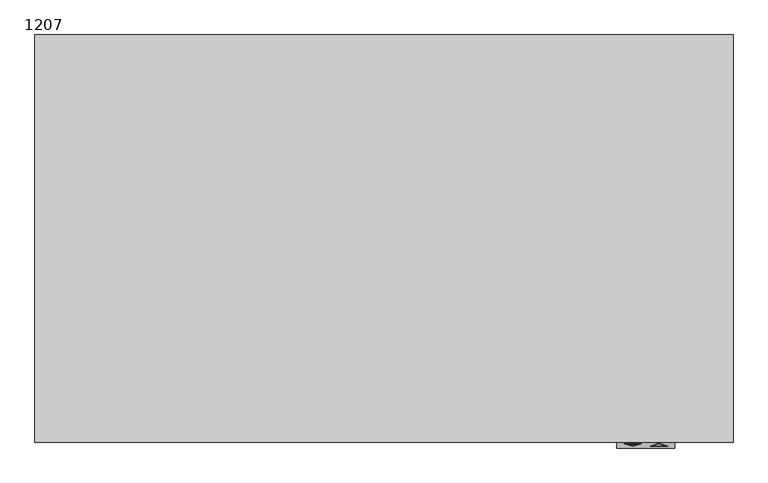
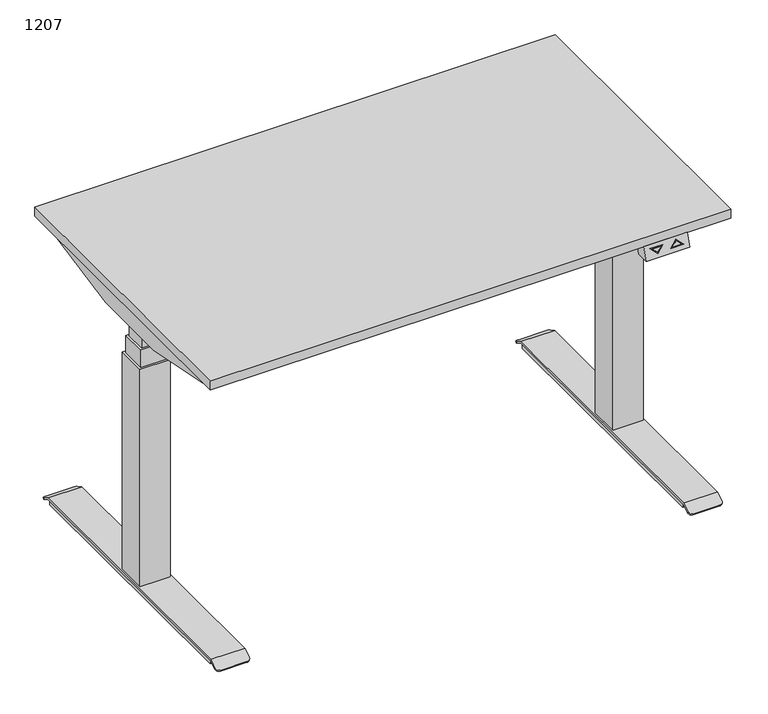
"""IFC4 building model written with IfcOpenShell, lengths in millimetres: furniture geometry, PINTA EQC : 1207."""

import ifcopenshell
import ifcopenshell.guid

model = None  # the IFC model being written
_history = None  # IfcOwnerHistory: only IFC2X3 demands one
_inside = {}  # id of a spatial element -> (the spatial element, [elements in it])
_under = {}  # id of a project, library or spatial element -> (it, [spatial elements below it])
_declared = {}  # id of a project -> (the project, [libraries it declares])
_typed = {}  # id of a type object -> (the type object, [elements of that type])
_made_of = {}  # id of a material, layer set ... -> (it, [elements and type objects made of it])


def new_model(schema):
    """Start an empty IFC model of exactly this schema.

    Asked for "IFC4X3", IfcOpenShell would pick the latest addendum, in which some entities
    have other attributes; the version numbers below select the first issue.
    IFC2X3 requires an IfcOwnerHistory on every rooted entity: one is made here for all.
    """
    global model, _history
    if schema == "IFC4X3":
        model = ifcopenshell.file(schema_version=(4, 3, 0, 0))
    else:
        model = ifcopenshell.file(schema=schema)
    _inside.clear()
    _under.clear()
    _declared.clear()
    _typed.clear()
    _made_of.clear()
    _history = None
    if model.schema == "IFC2X3":
        org = make("IfcOrganization", Name="unknown")
        user = make(
            "IfcPersonAndOrganization",
            ThePerson=make("IfcPerson", FamilyName="unknown"),
            TheOrganization=org,
        )
        app = make(
            "IfcApplication",
            ApplicationDeveloper=org,
            Version="unknown",
            ApplicationFullName="unknown",
            ApplicationIdentifier="unknown",
        )
        _history = make(
            "IfcOwnerHistory",
            OwningUser=user,
            OwningApplication=app,
            ChangeAction="ADDED",
            CreationDate=0,
        )
    return model


def make(cls, **values):
    """One entity of the class cls with the attributes given. An attribute that is None is left unset."""
    return model.create_entity(
        cls, **{name: value for name, value in values.items() if value is not None}
    )


def rooted(cls, **values):
    """An entity with a GlobalId (a new one), such as an element, a storey or a relation."""
    return make(cls, GlobalId=ifcopenshell.guid.new(), OwnerHistory=_history, **values)


def si_unit(unit_type, name, prefix=None):
    """IfcSIUnit, for example si_unit("LENGTHUNIT", "METRE", prefix="MILLI")."""
    return make("IfcSIUnit", UnitType=unit_type, Prefix=prefix, Name=name)


def assignment(units):
    """IfcUnitAssignment: the units of a project."""
    return None if units is None else make("IfcUnitAssignment", Units=units)


def point(xyz):
    """IfcCartesianPoint."""
    return None if xyz is None else make("IfcCartesianPoint", Coordinates=xyz)


def direction(xyz):
    """IfcDirection."""
    return None if xyz is None else make("IfcDirection", DirectionRatios=xyz)


def frame(location, z_axis=None, x_axis=None):
    """IfcAxis2Placement3D, a coordinate frame: its origin and axes. An axis left out is left unset."""
    return make(
        "IfcAxis2Placement3D",
        Location=point(location),
        Axis=direction(z_axis),
        RefDirection=direction(x_axis),
    )


def frame_2d(location, x_axis=None):
    """IfcAxis2Placement2D, a coordinate frame in the plane: its origin and x axis."""
    return make(
        "IfcAxis2Placement2D", Location=point(location), RefDirection=direction(x_axis)
    )


def origin():
    """The frame at (0, 0, 0) with its axes left unset."""
    return frame((0.0, 0.0, 0.0))


def origin_with_axes():
    """The frame at (0, 0, 0) with the z axis (0, 0, 1) and the x axis (1, 0, 0) written out."""
    return frame((0.0, 0.0, 0.0), z_axis=(0.0, 0.0, 1.0), x_axis=(1.0, 0.0, 0.0))


def place(relative_to, where):
    """IfcLocalPlacement: puts the frame where relative to a parent placement (None: the world)."""
    return make(
        "IfcLocalPlacement", PlacementRelTo=relative_to, RelativePlacement=where
    )


def context(
    kind, dimensions, precision=None, world=None, true_north=None, identifier=None
):
    """IfcGeometricRepresentationContext, for example the 3D "Model" context."""
    return make(
        "IfcGeometricRepresentationContext",
        ContextIdentifier=identifier,
        ContextType=kind,
        CoordinateSpaceDimension=dimensions,
        Precision=precision,
        WorldCoordinateSystem=world,
        TrueNorth=true_north,
    )


def project(units=None, contexts=None):
    """IfcProject with its units and contexts."""
    return rooted(
        "IfcProject",
        Name="project",
        RepresentationContexts=contexts,
        UnitsInContext=assignment(units),
    )


def spatial(cls, under=None, at=None, **own):
    """A site, building, storey or space (cls), placed at a placement, below another one or the project."""
    s = rooted(cls, ObjectPlacement=at, **own)
    if under is not None:
        _under.setdefault(under.id(), (under, []))[1].append(s)
    return s


def polyline(points):
    """IfcPolyline through the points."""
    return make("IfcPolyline", Points=[point(p) for p in points])


def circle_curve(where, radius):
    """IfcCircle in the frame where."""
    return make("IfcCircle", Position=where, Radius=radius)


def trimmed(basis, trim1, trim2, sense, master):
    """IfcTrimmedCurve: the piece of a basis curve between two trims."""
    return make(
        "IfcTrimmedCurve",
        BasisCurve=basis,
        Trim1=trim1,
        Trim2=trim2,
        SenseAgreement=sense,
        MasterRepresentation=master,
    )


def segment(curve, same_sense, transition):
    """IfcCompositeCurveSegment."""
    return make(
        "IfcCompositeCurveSegment",
        Transition=transition,
        SameSense=same_sense,
        ParentCurve=curve,
    )


def composite_curve(segments, self_intersect=None):
    """IfcCompositeCurve: segments joined end to end."""
    return make("IfcCompositeCurve", Segments=segments, SelfIntersect=self_intersect)


def outline(outer, holes=None, kind="AREA"):
    """IfcArbitraryClosedProfileDef: a profile drawn as a closed curve; with holes, ...WithVoids."""
    if holes is None:
        return make("IfcArbitraryClosedProfileDef", ProfileType=kind, OuterCurve=outer)
    return make(
        "IfcArbitraryProfileDefWithVoids",
        ProfileType=kind,
        OuterCurve=outer,
        InnerCurves=holes,
    )


def extrude(swept, where, along, depth):
    """IfcExtrudedAreaSolid: the profile swept, set in the frame where, extruded along a direction by depth."""
    return make(
        "IfcExtrudedAreaSolid",
        SweptArea=swept,
        Position=where,
        ExtrudedDirection=direction(along),
        Depth=depth,
    )


def faces_of(points, faces, orient=None, outer=None):
    """IfcFace entities. A face is a list of loops; a loop is a list of indices into points, from 0.

    orient and outer hold one flag for each loop. By default every Orientation is true, the
    first loop of a face is its IfcFaceOuterBound and the others are IfcFaceBound.
    """
    made = []
    for i, loops in enumerate(faces):
        bounds = []
        for j, loop in enumerate(loops):
            is_outer = j == 0 if outer is None else outer[i][j]
            bounds.append(
                make(
                    "IfcFaceOuterBound" if is_outer else "IfcFaceBound",
                    Bound=make("IfcPolyLoop", Polygon=[points[k] for k in loop]),
                    Orientation=True if orient is None else orient[i][j],
                )
            )
        made.append(make("IfcFace", Bounds=bounds))
    return made


def faceted_brep(points, faces, orient=None, outer=None, voids=None):
    """IfcFacetedBrep: a solid bounded by flat faces; with voids (closed shells), ...WithVoids."""
    shared = [point(p) for p in points]
    hull = make("IfcClosedShell", CfsFaces=faces_of(shared, faces, orient, outer))
    if voids is None:
        return make("IfcFacetedBrep", Outer=hull)
    return make(
        "IfcFacetedBrepWithVoids",
        Outer=hull,
        Voids=[
            make(cls, CfsFaces=faces_of(shared, fs, o, b)) for cls, fs, o, b in voids
        ],
    )


def shape(context_of_items, identifier, shape_type, items):
    """IfcShapeRepresentation: the items that make up one representation, for example the "Body"."""
    return make(
        "IfcShapeRepresentation",
        ContextOfItems=context_of_items,
        RepresentationIdentifier=identifier,
        RepresentationType=shape_type,
        Items=items,
    )


def source(mapping_origin, context_of_items, identifier, shape_type, items):
    """IfcRepresentationMap: a shape defined once, which mapped items show again and again."""
    return make(
        "IfcRepresentationMap",
        MappingOrigin=mapping_origin,
        MappedRepresentation=shape(context_of_items, identifier, shape_type, items),
    )


def transform(
    local_origin,
    x_axis=None,
    y_axis=None,
    z_axis=None,
    scale=None,
    scale2=None,
    scale3=None,
    uniform=True,
):
    """IfcCartesianTransformationOperator3D, or its non-uniform kind. x_axis, y_axis, z_axis: its Axis1, 2, 3."""
    if uniform:
        return make(
            "IfcCartesianTransformationOperator3D",
            Axis1=direction(x_axis),
            Axis2=direction(y_axis),
            LocalOrigin=point(local_origin),
            Scale=scale,
            Axis3=direction(z_axis),
        )
    return make(
        "IfcCartesianTransformationOperator3DnonUniform",
        Axis1=direction(x_axis),
        Axis2=direction(y_axis),
        LocalOrigin=point(local_origin),
        Scale=scale,
        Axis3=direction(z_axis),
        Scale2=scale2,
        Scale3=scale3,
    )


def mapped(mapping_source, mapping_target):
    """IfcMappedItem: shows the shape of a source again, moved by a transform."""
    return make(
        "IfcMappedItem", MappingSource=mapping_source, MappingTarget=mapping_target
    )


def made_of(thing, what):
    """Note that an element or type object is made of a material, layer set ...; save() writes the relation."""
    if what is not None:
        _made_of.setdefault(what.id(), (what, []))[1].append(thing)
    return thing


def element(
    cls,
    number,
    at=None,
    inside=None,
    cuts=None,
    type_object=None,
    material=None,
    context=None,
    identifier="Body",
    shape_type=None,
    held_by="IfcProductDefinitionShape",
    body=None,
    shapes=None,
    **own,
):
    """One element of the class cls, such as IfcWall. Its Tag is "e" and its number.

    at: its placement. inside: the storey or other place that contains it. cuts: it is an
    opening in that element (IfcRelVoidsElement). A single representation is given by context,
    identifier, shape_type and body (its items); several are given by shapes. held_by: the class
    of the entity that holds the representations. save() writes the other relations.
    """
    e = rooted(cls, Tag="e%d" % number, ObjectPlacement=at, **own)
    if body is not None:
        shapes = [shape(context, identifier, shape_type, body)]
    if shapes is not None:
        e.Representation = make(held_by, Representations=shapes)
    if inside is not None:
        _inside.setdefault(inside.id(), (inside, []))[1].append(e)
    if cuts is not None:
        rooted(
            "IfcRelVoidsElement", RelatingBuildingElement=cuts, RelatedOpeningElement=e
        )
    if type_object is not None:
        _typed.setdefault(type_object.id(), (type_object, []))[1].append(e)
    return made_of(e, material)


def aggregate(whole, parts):
    """IfcRelAggregates: a whole, such as a stair, and the parts it consists of."""
    return rooted("IfcRelAggregates", RelatingObject=whole, RelatedObjects=parts)


def save(model, path):
    """Write the relations noted so far, then the file.

    IfcRelAggregates (storeys below a building ...), IfcRelContainedInSpatialStructure (elements
    in a storey), IfcRelDefinesByType, IfcRelAssociatesMaterial and IfcRelDeclares: one each for
    every whole, place, type object, material and project.
    """
    for whole, parts in _under.values():
        aggregate(whole, parts)
    for where, things in _inside.values():
        rooted(
            "IfcRelContainedInSpatialStructure",
            RelatedElements=things,
            RelatingStructure=where,
        )
    for kind, things in _typed.values():
        rooted("IfcRelDefinesByType", RelatedObjects=things, RelatingType=kind)
    for what, things in _made_of.values():
        rooted("IfcRelAssociatesMaterial", RelatedObjects=things, RelatingMaterial=what)
    for by, libraries in _declared.values():
        rooted("IfcRelDeclares", RelatingContext=by, RelatedDefinitions=libraries)
    model.write(path)


def plane_surface(at):
    """IfcPlane: the flat surface through the origin of the frame at, square to its z axis."""
    return make("IfcPlane", Position=at)


def cylinder_surface(at, radius):
    """IfcCylindricalSurface: all points at the distance radius from the z axis of the frame at."""
    return make("IfcCylindricalSurface", Position=at, Radius=radius)


def advanced_brep(points, edges, surfaces, faces):
    """IfcAdvancedBrep: a solid bounded by faces that lie on surfaces and meet in shared edges.

    An edge is (start, end): straight between two places in points (the first is 0);
    or (start, end, curve); or (start, end, curve, False) where it runs against its curve.
    A face is (place in surfaces, loops), or (place, loops, False) where it looks against
    its surface's normal. A loop lists edges by number (the first is 1), with a minus sign
    where the edge is run from its end to its start. The first loop is the outer one.
    """
    corners = [point(p) for p in points]
    vertices = [make("IfcVertexPoint", VertexGeometry=c) for c in corners]
    made = []
    for start, end, *more in edges:
        made.append(
            make(
                "IfcEdgeCurve",
                EdgeStart=vertices[start],
                EdgeEnd=vertices[end],
                EdgeGeometry=more[0] if more else make("IfcPolyline", Points=[corners[start], corners[end]]),
                SameSense=more[1] if len(more) > 1 else True,
            )
        )
    hull = []
    for where, loops, *sense in faces:
        bounds = []
        for j, loop in enumerate(loops):
            ring = [make("IfcOrientedEdge", EdgeElement=made[abs(k) - 1], Orientation=k > 0) for k in loop]
            bounds.append(
                make(
                    "IfcFaceOuterBound" if j == 0 else "IfcFaceBound",
                    Bound=make("IfcEdgeLoop", EdgeList=ring),
                    Orientation=True,
                )
            )
        hull.append(make("IfcAdvancedFace", Bounds=bounds, FaceSurface=surfaces[where], SameSense=sense[0] if sense else True))
    return make("IfcAdvancedBrep", Outer=make("IfcClosedShell", CfsFaces=hull))


def furniture_1207_d545df40(model_context):
    return source(origin(), model_context, "Body", "SolidModel", [
        faceted_brep([(400.0, -710.0, 668.0), (400.0, -680.0, 668.0), (500.0, -680.0, 668.0), (500.0, -710.0, 668.0), (400.0, -700.0, 698.0), (500.0, -700.0, 698.0), (500.0, -670.0, 698.0), (400.0, -670.0, 698.0), (412.5, -702.6491106, 690.0526681), (442.5, -702.6491106, 690.0526681), (427.5, -707.3925271, 675.8224186), (487.5, -706.9174824, 677.2475529), (457.5, -706.9174824, 677.2475529), (472.5, -702.1740659, 691.4778023), (427.5, -706.4980999, 678.5057002), (437.6715729, -703.2815662, 688.1553015), (417.3284271, -703.2815662, 688.1553015), (482.6715729, -706.2850268, 679.1449195), (472.5, -703.0684931, 688.7945208), (462.3284271, -706.2850268, 679.1449195), (442.5, -701.7004273, 689.7364403), (412.5, -701.7004273, 689.7364403), (427.5, -706.4438438, 675.5061908), (437.6715729, -702.3328829, 687.8390737), (427.5, -705.5494166, 678.1894724), (417.3284271, -702.3328829, 687.8390737), (457.5, -705.9687991, 676.9313251), (487.5, -705.9687991, 676.9313251), (472.5, -701.2253826, 691.1615746), (472.5, -702.1198098, 688.478293), (482.6715729, -705.3363436, 678.8286917), (462.3284271, -705.3363436, 678.8286917)], [[[0, 1, 2, 3]], [[4, 5, 6, 7]], [[1, 0, 4, 7]], [[3, 2, 6, 5]], [[0, 3, 5, 4], [8, 9, 10], [11, 12, 13]], [[14, 15, 16]], [[17, 18, 19]], [[2, 1, 7, 6]], [[20, 21, 22], [23, 24, 25]], [[26, 27, 28], [29, 30, 31]], [[21, 20, 9, 8]], [[22, 21, 8, 10]], [[20, 22, 10, 9]], [[27, 26, 12, 11]], [[28, 27, 11, 13]], [[26, 28, 13, 12]], [[24, 23, 15, 14]], [[25, 24, 14, 16]], [[23, 25, 16, 15]], [[30, 29, 18, 17]], [[31, 30, 17, 19]], [[29, 31, 19, 18]]]),
        extrude(outline(polyline([(-580.0, -269.7732113), (580.0, -269.7733158), (580.0, -289.7733158), (-580.0, -289.7732113), (-580.0, -269.7732113)])), frame((0.0, 0.0, 658.0), z_axis=(0.0, 0.0, 1.0), x_axis=(1.0, 0.0, 0.0)), (0.0, 0.0, 1.0), 40.0),
        extrude(outline(polyline([(-580.0, -409.7732114), (580.0, -409.7733158), (580.0, -429.7733158), (-580.0, -429.7732114), (-580.0, -409.7732114)])), frame((0.0, 0.0, 658.0), z_axis=(0.0, 0.0, 1.0), x_axis=(1.0, 0.0, 0.0)), (0.0, 0.0, 1.0), 40.0),
        extrude(outline(polyline([(-600.0, -700.0), (-600.0, 0.0), (600.0, 0.0), (600.0, -700.0), (-600.0, -700.0)])), frame((0.0, 0.0, 698.0), z_axis=(0.0, 0.0, 1.0), x_axis=(1.0, 0.0, 0.0)), (0.0, 0.0, 1.0), 22.0),
        advanced_brep(
        [(506.9772339, -670.0, 6.0), (506.9772339, -670.0, 16.0), (506.9772339, -30.0, 16.0), (506.9772339, -30.0, 6.0), (583.0227661, -30.0, 16.0), (583.0227661, -30.0, 6.0), (583.0227661, -670.0, 16.0), (583.0227661, -670.0, 6.0), (506.0, -25.0, 20.0), (506.0, -6.9800481, 9.908827), (506.0, -8.9344616, 6.4188029), (506.0, -26.0437422, 16.0), (506.0, -673.9562578, 16.0), (506.0, -691.0655384, 6.4188029), (506.0, -693.0199519, 9.908827), (506.0, -675.0, 20.0), (584.0, -26.0437422, 16.0), (584.0, -8.9344616, 6.4188029), (584.0, -6.9800481, 9.908827), (584.0, -25.0, 20.0), (584.0, -675.0, 20.0), (584.0, -693.0199519, 9.908827), (584.0, -691.0655384, 6.4188029), (584.0, -673.9562578, 16.0), (514.0, -700.0, 6.0), (576.0, -700.0, 6.0), (514.0, -698.0455865, 2.5099759), (576.0, -698.0455865, 2.5099759), (514.0, -1.9544135, 2.5099759), (576.0, -1.9544135, 2.5099759), (514.0, 0.0, 6.0), (576.0, 0.0, 6.0)],
        [
            (0, 1),
            (1, 2),
            (2, 3),
            (3, 0),
            (2, 4),
            (4, 5),
            (5, 3),
            (4, 6),
            (6, 7),
            (7, 5),
            (6, 1),
            (0, 7),
            (8, 9),
            (9, 10),
            (10, 11),
            (11, 12),
            (12, 13),
            (13, 14),
            (14, 15),
            (15, 8),
            (16, 17),
            (17, 18),
            (18, 19),
            (19, 20),
            (20, 21),
            (21, 22),
            (22, 23),
            (23, 16),
            (15, 20),
            (19, 8),
            (11, 16),
            (23, 12),
            (14, 24, circle_curve(frame((514.0, -693.0199519, 9.908827), z_axis=(0.0, -0.4886033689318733, 0.8725060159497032), x_axis=(0.0, 0.8725060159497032, 0.4886033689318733)), 8.0)),
            (24, 25),
            (25, 21, circle_curve(frame((576.0, -693.0199519, 9.908827), z_axis=(0.0, -0.4886033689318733, 0.8725060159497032), x_axis=(0.0, 0.8725060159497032, 0.4886033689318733)), 8.0)),
            (24, 26),
            (26, 27),
            (27, 25),
            (22, 27, circle_curve(frame((576.0, -691.0655384, 6.4188029), z_axis=(0.0, 0.4886033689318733, -0.8725060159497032), x_axis=(0.0, 0.8725060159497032, 0.4886033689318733)), 8.0)),
            (26, 13, circle_curve(frame((514.0, -691.0655384, 6.4188029), z_axis=(0.0, 0.4886033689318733, -0.8725060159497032), x_axis=(0.0, 0.8725060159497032, 0.4886033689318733)), 8.0)),
            (10, 28, circle_curve(frame((514.0, -8.9344616, 6.4188029), z_axis=(0.0, -0.4886033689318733, -0.8725060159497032), x_axis=(0.0, -0.8725060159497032, 0.4886033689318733)), 8.0)),
            (28, 29),
            (29, 17, circle_curve(frame((576.0, -8.9344616, 6.4188029), z_axis=(0.0, -0.4886033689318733, -0.8725060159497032), x_axis=(0.0, -0.8725060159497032, 0.4886033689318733)), 8.0)),
            (28, 30),
            (30, 31),
            (31, 29),
            (18, 31, circle_curve(frame((576.0, -6.9800481, 9.908827), z_axis=(0.0, 0.4886033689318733, 0.8725060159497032), x_axis=(0.0, -0.8725060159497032, 0.4886033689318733)), 8.0)),
            (30, 9, circle_curve(frame((514.0, -6.9800481, 9.908827), z_axis=(0.0, 0.4886033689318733, 0.8725060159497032), x_axis=(0.0, -0.8725060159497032, 0.4886033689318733)), 8.0)),
        ],
        [
            plane_surface(frame((506.9772339, -670.0, 16.0), z_axis=(-1.0, 0.0, 0.0), x_axis=(0.0, 0.0, -1.0))),
            plane_surface(frame((506.9772339, -30.0, 16.0), z_axis=(0.0, 1.0, 0.0), x_axis=(0.0, 0.0, -1.0))),
            plane_surface(frame((583.0227661, -30.0, 16.0), z_axis=(1.0, 0.0, 0.0), x_axis=(0.0, 0.0, -1.0))),
            plane_surface(frame((583.0227661, -670.0, 16.0), z_axis=(0.0, -1.0, 0.0), x_axis=(0.0, 0.0, -1.0))),
            plane_surface(frame((506.9772339, -673.4188232, 6.0), z_axis=(0.0, 0.0, -1.0), x_axis=(0.0, -1.0, 0.0))),
            plane_surface(frame((506.0, -350.0, 20.0), z_axis=(-1.0, 0.0, 0.0), x_axis=(0.0, -1.0, 0.0))),
            plane_surface(frame((584.0, -350.0, 20.0), z_axis=(1.0, 0.0, 0.0), x_axis=(0.0, 1.0, 0.0))),
            plane_surface(frame((506.0, -25.0, 20.0), z_axis=(0.0, 0.0, 1.0), x_axis=(1.0, 0.0, 0.0))),
            plane_surface(frame((506.0, -673.9562578, 16.0), z_axis=(0.0, 0.0, -1.0), x_axis=(1.0, 0.0, 0.0))),
            plane_surface(frame((506.0, -675.0, 20.0), z_axis=(0.0, -0.4886033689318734, 0.8725060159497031), x_axis=(1.0, 0.0, 0.0))),
            plane_surface(frame((506.0, -700.0, 6.0), z_axis=(0.0, -0.872506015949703, -0.4886033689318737), x_axis=(1.0, 0.0, 0.0))),
            plane_surface(frame((506.0, -698.0455865, 2.5099759), z_axis=(0.0, 0.4886033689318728, -0.8725060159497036), x_axis=(1.0, 0.0, 0.0))),
            plane_surface(frame((506.0, -26.0437422, 16.0), z_axis=(0.0, -0.4886033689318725, -0.8725060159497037), x_axis=(1.0, 0.0, 0.0))),
            plane_surface(frame((506.0, -1.9544135, 2.5099759), z_axis=(0.0, 0.8725060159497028, -0.48860336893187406), x_axis=(1.0, 0.0, 0.0))),
            plane_surface(frame((506.0, 0.0, 6.0), z_axis=(0.0, 0.48860336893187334, 0.8725060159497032), x_axis=(1.0, 0.0, 0.0))),
            cylinder_surface(frame((514.0, -693.0199519, 9.908827), z_axis=(0.0, -0.4886033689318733, 0.8725060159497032), x_axis=(0.0, 0.8725060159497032, 0.4886033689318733)), 8.0),
            cylinder_surface(frame((576.0, -693.0199519, 9.908827), z_axis=(0.0, -0.4886033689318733, 0.8725060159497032), x_axis=(0.0, 0.8725060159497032, 0.4886033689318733)), 8.0),
            cylinder_surface(frame((514.0, -6.9800481, 9.908827), z_axis=(0.0, 0.4886033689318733, 0.8725060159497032), x_axis=(0.0, -0.8725060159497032, 0.4886033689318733)), 8.0),
            cylinder_surface(frame((576.0, -6.9800481, 9.908827), z_axis=(0.0, 0.4886033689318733, 0.8725060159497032), x_axis=(0.0, -0.8725060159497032, 0.4886033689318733)), 8.0),
        ],
        [
            (0, [[1, 2, 3, 4]]),
            (1, [[-3, 5, 6, 7]]),
            (2, [[-6, 8, 9, 10]]),
            (3, [[-9, 11, -1, 12]]),
            (4, [[-4, -7, -10, -12]]),
            (5, [[13, 14, 15, 16, 17, 18, 19, 20]]),
            (6, [[21, 22, 23, 24, 25, 26, 27, 28]]),
            (7, [[29, -24, 30, -20]]),
            (8, [[31, -28, 32, -16], [-11, -8, -5, -2]]),
            (9, [[-19, 33, 34, 35, -25, -29]]),
            (10, [[36, 37, 38, -34]]),
            (11, [[-27, 39, -37, 40, -17, -32]]),
            (12, [[-15, 41, 42, 43, -21, -31]]),
            (13, [[44, 45, 46, -42]]),
            (14, [[-23, 47, -45, 48, -13, -30]]),
            (15, [[-40, -36, -33, -18]]),
            (16, [[-35, -38, -39, -26]]),
            (17, [[-48, -44, -41, -14]]),
            (18, [[-43, -46, -47, -22]]),
        ],
    ),
        faceted_brep([(379.4551307, -410.0, 698.0), (562.9996948, -410.0, 698.0), (562.9996948, -650.0, 698.0), (579.4551307, -650.0, 698.0), (583.0, -650.0, 698.0), (583.0, -50.0, 698.0), (579.4551307, -50.0, 698.0), (562.9996948, -50.0, 698.0), (562.9996948, -290.0, 698.0), (379.4551307, -290.0, 698.0), (379.4551307, -410.0, 635.2327881), (379.4551307, -290.0, 635.2327881), (579.4551307, -290.0, 635.2327881), (579.4551307, -253.8252348, 635.2327881), (583.0, -253.8252348, 635.2327881), (583.0, -446.1747652, 635.2327881), (579.4551307, -446.1747652, 635.2327881), (579.4551307, -410.0, 635.2327881), (562.9996948, -290.0, 694.9093018), (579.4551307, -290.0, 694.9093018), (579.4551307, -410.0, 694.9093018), (562.9996948, -410.0, 694.9093018), (579.4551307, -650.0, 694.9093018), (562.9996948, -650.0, 694.9093018), (579.4551307, -50.0, 694.9093018), (562.9996948, -50.0, 694.9093018), (579.4551307, -51.1249222, 694.9093018), (579.4551307, -648.8750778, 694.9093018), (579.4551307, -58.5505036, 674.5076845), (579.4551307, -641.4494964, 674.5076845), (583.0, -58.5505036, 674.5076845), (583.0, -641.4494964, 674.5076845)], [[[0, 1, 2, 3, 4, 5, 6, 7, 8, 9]], [[10, 11, 12, 13, 14, 15, 16, 17]], [[9, 11, 10, 0]], [[11, 9, 8, 18, 19, 12]], [[17, 20, 21, 1, 0, 10]], [[22, 3, 2, 23]], [[24, 25, 7, 6]], [[24, 26, 19, 18, 25]], [[23, 21, 20, 27, 22]], [[2, 1, 21, 23]], [[25, 18, 8, 7]], [[13, 12, 19, 26, 28]], [[29, 27, 20, 17, 16]], [[15, 14, 30, 5, 4, 31]], [[16, 15, 31, 29]], [[22, 27, 3]], [[6, 26, 24]], [[4, 3, 27, 29, 31]], [[28, 30, 14, 13]], [[30, 28, 26, 6, 5]]]),
        extrude(outline(composite_curve([segment(trimmed(circle_curve(frame_2d((545.0, -655.0)), 25.0), [point((570.0, -655.0))], [point((520.0, -655.0))], False, "CARTESIAN"), True, "CONTINUOUS"), segment(trimmed(circle_curve(frame_2d((545.0, -655.0)), 25.0), [point((520.0, -655.0))], [point((570.0, -655.0))], False, "CARTESIAN"), True, "CONTINUOUS")], self_intersect=False)), origin_with_axes(), (0.0, 0.0, 1.0), 6.0),
        extrude(outline(composite_curve([segment(trimmed(circle_curve(frame_2d((545.0, -45.0)), 25.0), [point((570.0, -45.0))], [point((520.0, -45.0))], False, "CARTESIAN"), True, "CONTINUOUS"), segment(trimmed(circle_curve(frame_2d((545.0, -45.0)), 25.0), [point((520.0, -45.0))], [point((570.0, -45.0))], False, "CARTESIAN"), True, "CONTINUOUS")], self_intersect=False)), origin_with_axes(), (0.0, 0.0, 1.0), 6.0),
        faceted_brep([(510.0, -315.0, 550.0), (510.0, -384.9621325, 550.0), (580.0, -384.9621325, 550.0), (580.0, -315.0, 550.0), (575.0, -320.0, 550.0), (575.0, -379.9621325, 550.0), (515.0, -379.9621325, 550.0), (515.0, -320.0, 550.0), (510.0, -315.0, 20.0), (580.0, -315.0, 20.0), (580.0, -384.9621325, 20.0), (510.0, -384.9621325, 20.0), (515.0, -320.0, 592.616394), (515.0, -379.9621325, 592.616394), (575.0, -379.9621325, 592.616394), (575.0, -320.0, 592.616394), (570.0, -325.0, 592.616394), (570.0, -374.9621325, 592.616394), (520.0, -374.9621325, 592.616394), (520.0, -325.0, 592.616394), (520.0, -325.0, 635.2327881), (520.0, -374.9621325, 635.2327881), (570.0, -374.9621325, 635.2327881), (570.0, -325.0, 635.2327881)], [[[0, 1, 2, 3], [4, 5, 6, 7]], [[8, 9, 10, 11]], [[3, 9, 8, 0]], [[2, 10, 9, 3]], [[1, 11, 10, 2]], [[0, 8, 11, 1]], [[12, 13, 14, 15], [16, 17, 18, 19]], [[15, 4, 7, 12]], [[14, 5, 4, 15]], [[13, 6, 5, 14]], [[12, 7, 6, 13]], [[20, 21, 22, 23]], [[23, 16, 19, 20]], [[22, 17, 16, 23]], [[21, 18, 17, 22]], [[20, 19, 18, 21]]]),
        advanced_brep(
        [(-506.9772339, -670.0, 6.0), (-506.9772339, -30.0, 6.0), (-506.9772339, -30.0, 16.0), (-506.9772339, -670.0, 16.0), (-583.0227661, -30.0, 6.0), (-583.0227661, -30.0, 16.0), (-583.0227661, -670.0, 6.0), (-583.0227661, -670.0, 16.0), (-506.0, -25.0, 20.0), (-506.0, -675.0, 20.0), (-506.0, -693.0199519, 9.908827), (-506.0, -691.0655384, 6.4188029), (-506.0, -673.9562578, 16.0), (-506.0, -26.0437422, 16.0), (-506.0, -8.9344616, 6.4188029), (-506.0, -6.9800481, 9.908827), (-584.0, -26.0437422, 16.0), (-584.0, -673.9562578, 16.0), (-584.0, -691.0655384, 6.4188029), (-584.0, -693.0199519, 9.908827), (-584.0, -675.0, 20.0), (-584.0, -25.0, 20.0), (-584.0, -6.9800481, 9.908827), (-584.0, -8.9344616, 6.4188029), (-576.0, -700.0, 6.0), (-514.0, -700.0, 6.0), (-576.0, -698.0455865, 2.5099759), (-514.0, -698.0455865, 2.5099759), (-576.0, -1.9544135, 2.5099759), (-514.0, -1.9544135, 2.5099759), (-576.0, 0.0, 6.0), (-514.0, 0.0, 6.0)],
        [
            (0, 1),
            (1, 2),
            (2, 3),
            (3, 0),
            (1, 4),
            (4, 5),
            (5, 2),
            (4, 6),
            (6, 7),
            (7, 5),
            (6, 0),
            (3, 7),
            (8, 9),
            (9, 10),
            (10, 11),
            (11, 12),
            (12, 13),
            (13, 14),
            (14, 15),
            (15, 8),
            (16, 17),
            (17, 18),
            (18, 19),
            (19, 20),
            (20, 21),
            (21, 22),
            (22, 23),
            (23, 16),
            (8, 21),
            (20, 9),
            (12, 17),
            (16, 13),
            (19, 24, circle_curve(frame((-576.0, -693.0199519, 9.908827), z_axis=(0.0, -0.4886033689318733, 0.8725060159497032), x_axis=(0.0, 0.8725060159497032, 0.4886033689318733)), 8.0)),
            (24, 25),
            (25, 10, circle_curve(frame((-514.0, -693.0199519, 9.908827), z_axis=(0.0, -0.4886033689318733, 0.8725060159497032), x_axis=(0.0, 0.8725060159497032, 0.4886033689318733)), 8.0)),
            (24, 26),
            (26, 27),
            (27, 25),
            (11, 27, circle_curve(frame((-514.0, -691.0655384, 6.4188029), z_axis=(0.0, 0.4886033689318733, -0.8725060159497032), x_axis=(0.0, 0.8725060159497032, 0.4886033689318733)), 8.0)),
            (26, 18, circle_curve(frame((-576.0, -691.0655384, 6.4188029), z_axis=(0.0, 0.4886033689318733, -0.8725060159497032), x_axis=(0.0, 0.8725060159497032, 0.4886033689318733)), 8.0)),
            (23, 28, circle_curve(frame((-576.0, -8.9344616, 6.4188029), z_axis=(0.0, -0.4886033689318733, -0.8725060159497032), x_axis=(0.0, -0.8725060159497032, 0.4886033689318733)), 8.0)),
            (28, 29),
            (29, 14, circle_curve(frame((-514.0, -8.9344616, 6.4188029), z_axis=(0.0, -0.4886033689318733, -0.8725060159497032), x_axis=(0.0, -0.8725060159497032, 0.4886033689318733)), 8.0)),
            (28, 30),
            (30, 31),
            (31, 29),
            (15, 31, circle_curve(frame((-514.0, -6.9800481, 9.908827), z_axis=(0.0, 0.4886033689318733, 0.8725060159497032), x_axis=(0.0, -0.8725060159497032, 0.4886033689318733)), 8.0)),
            (30, 22, circle_curve(frame((-576.0, -6.9800481, 9.908827), z_axis=(0.0, 0.4886033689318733, 0.8725060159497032), x_axis=(0.0, -0.8725060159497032, 0.4886033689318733)), 8.0)),
        ],
        [
            plane_surface(frame((-506.9772339, -670.0, 16.0), z_axis=(1.0, 0.0, 0.0), x_axis=(0.0, 0.0, -1.0))),
            plane_surface(frame((-506.9772339, -30.0, 16.0), z_axis=(0.0, 1.0, 0.0), x_axis=(0.0, 0.0, -1.0))),
            plane_surface(frame((-583.0227661, -30.0, 16.0), z_axis=(-1.0, 0.0, 0.0), x_axis=(0.0, 0.0, -1.0))),
            plane_surface(frame((-583.0227661, -670.0, 16.0), z_axis=(0.0, -1.0, 0.0), x_axis=(0.0, 0.0, -1.0))),
            plane_surface(frame((-506.9772339, -673.4188232, 6.0), z_axis=(0.0, 0.0, -1.0), x_axis=(0.0, -1.0, 0.0))),
            plane_surface(frame((-506.0, -350.0, 20.0), z_axis=(1.0, 0.0, 0.0), x_axis=(0.0, -1.0, 0.0))),
            plane_surface(frame((-584.0, -350.0, 20.0), z_axis=(-1.0, 0.0, 0.0), x_axis=(0.0, 1.0, 0.0))),
            plane_surface(frame((-506.0, -25.0, 20.0), z_axis=(0.0, 0.0, 1.0), x_axis=(-1.0, 0.0, 0.0))),
            plane_surface(frame((-506.0, -673.9562578, 16.0), z_axis=(0.0, 0.0, -1.0), x_axis=(-1.0, 0.0, 0.0))),
            plane_surface(frame((-506.0, -675.0, 20.0), z_axis=(0.0, -0.4886033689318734, 0.8725060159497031), x_axis=(-1.0, 0.0, 0.0))),
            plane_surface(frame((-506.0, -700.0, 6.0), z_axis=(0.0, -0.872506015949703, -0.4886033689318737), x_axis=(-1.0, 0.0, 0.0))),
            plane_surface(frame((-506.0, -698.0455865, 2.5099759), z_axis=(0.0, 0.4886033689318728, -0.8725060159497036), x_axis=(-1.0, 0.0, 0.0))),
            plane_surface(frame((-506.0, -26.0437422, 16.0), z_axis=(0.0, -0.4886033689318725, -0.8725060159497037), x_axis=(-1.0, 0.0, 0.0))),
            plane_surface(frame((-506.0, -1.9544135, 2.5099759), z_axis=(0.0, 0.8725060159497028, -0.48860336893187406), x_axis=(-1.0, 0.0, 0.0))),
            plane_surface(frame((-506.0, 0.0, 6.0), z_axis=(0.0, 0.48860336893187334, 0.8725060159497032), x_axis=(-1.0, 0.0, 0.0))),
            cylinder_surface(frame((-514.0, -693.0199519, 9.908827), z_axis=(0.0, -0.4886033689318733, 0.8725060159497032), x_axis=(0.0, 0.8725060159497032, 0.4886033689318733)), 8.0),
            cylinder_surface(frame((-576.0, -693.0199519, 9.908827), z_axis=(0.0, -0.4886033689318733, 0.8725060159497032), x_axis=(0.0, 0.8725060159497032, 0.4886033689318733)), 8.0),
            cylinder_surface(frame((-514.0, -6.9800481, 9.908827), z_axis=(0.0, 0.4886033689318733, 0.8725060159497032), x_axis=(0.0, -0.8725060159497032, 0.4886033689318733)), 8.0),
            cylinder_surface(frame((-576.0, -6.9800481, 9.908827), z_axis=(0.0, 0.4886033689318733, 0.8725060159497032), x_axis=(0.0, -0.8725060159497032, 0.4886033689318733)), 8.0),
        ],
        [
            (0, [[1, 2, 3, 4]]),
            (1, [[5, 6, 7, -2]]),
            (2, [[8, 9, 10, -6]]),
            (3, [[11, -4, 12, -9]]),
            (4, [[-11, -8, -5, -1]]),
            (5, [[13, 14, 15, 16, 17, 18, 19, 20]]),
            (6, [[21, 22, 23, 24, 25, 26, 27, 28]]),
            (7, [[-13, 29, -25, 30]]),
            (8, [[-17, 31, -21, 32], [-3, -7, -10, -12]]),
            (9, [[-30, -24, 33, 34, 35, -14]]),
            (10, [[-34, 36, 37, 38]]),
            (11, [[-31, -16, 39, -37, 40, -22]]),
            (12, [[-32, -28, 41, 42, 43, -18]]),
            (13, [[-42, 44, 45, 46]]),
            (14, [[-29, -20, 47, -45, 48, -26]]),
            (15, [[-15, -35, -38, -39]]),
            (16, [[-23, -40, -36, -33]]),
            (17, [[-19, -43, -46, -47]]),
            (18, [[-27, -48, -44, -41]]),
        ],
    ),
        faceted_brep([(-379.4551307, -410.0, 698.0), (-379.4551307, -290.0, 698.0), (-562.9996948, -290.0, 698.0), (-562.9996948, -50.0, 698.0), (-579.4551307, -50.0, 698.0), (-583.0, -50.0, 698.0), (-583.0, -650.0, 698.0), (-579.4551307, -650.0, 698.0), (-562.9996948, -650.0, 698.0), (-562.9996948, -410.0, 698.0), (-379.4551307, -410.0, 635.2327881), (-579.4551307, -410.0, 635.2327881), (-579.4551307, -446.1747652, 635.2327881), (-583.0, -446.1747652, 635.2327881), (-583.0, -253.8252348, 635.2327881), (-579.4551307, -253.8252348, 635.2327881), (-579.4551307, -290.0, 635.2327881), (-379.4551307, -290.0, 635.2327881), (-579.4551307, -290.0, 694.9093018), (-562.9996948, -290.0, 694.9093018), (-562.9996948, -410.0, 694.9093018), (-579.4551307, -410.0, 694.9093018), (-579.4551307, -650.0, 694.9093018), (-562.9996948, -650.0, 694.9093018), (-579.4551307, -50.0, 694.9093018), (-562.9996948, -50.0, 694.9093018), (-579.4551307, -648.8750778, 694.9093018), (-579.4551307, -51.1249222, 694.9093018), (-579.4551307, -641.4494964, 674.5076845), (-579.4551307, -58.5505036, 674.5076845), (-583.0, -641.4494964, 674.5076845), (-583.0, -58.5505036, 674.5076845)], [[[0, 1, 2, 3, 4, 5, 6, 7, 8, 9]], [[10, 11, 12, 13, 14, 15, 16, 17]], [[1, 0, 10, 17]], [[17, 16, 18, 19, 2, 1]], [[11, 10, 0, 9, 20, 21]], [[22, 23, 8, 7]], [[24, 4, 3, 25]], [[23, 22, 26, 21, 20]], [[24, 25, 19, 18, 27]], [[8, 23, 20, 9]], [[25, 3, 2, 19]], [[28, 12, 11, 21, 26]], [[15, 29, 27, 18, 16]], [[13, 30, 6, 5, 31, 14]], [[12, 28, 30, 13]], [[22, 7, 26]], [[4, 24, 27]], [[6, 30, 28, 26, 7]], [[29, 15, 14, 31]], [[31, 5, 4, 27, 29]]]),
        extrude(outline(composite_curve([segment(trimmed(circle_curve(frame_2d((-545.0, -655.0)), 25.0), [point((-570.0, -655.0))], [point((-520.0, -655.0))], False, "CARTESIAN"), True, "CONTINUOUS"), segment(trimmed(circle_curve(frame_2d((-545.0, -655.0)), 25.0), [point((-520.0, -655.0))], [point((-570.0, -655.0))], False, "CARTESIAN"), True, "CONTINUOUS")], self_intersect=False)), origin_with_axes(), (0.0, 0.0, 1.0), 6.0),
        extrude(outline(composite_curve([segment(trimmed(circle_curve(frame_2d((-545.0, -45.0)), 25.0), [point((-570.0, -45.0))], [point((-520.0, -45.0))], False, "CARTESIAN"), True, "CONTINUOUS"), segment(trimmed(circle_curve(frame_2d((-545.0, -45.0)), 25.0), [point((-520.0, -45.0))], [point((-570.0, -45.0))], False, "CARTESIAN"), True, "CONTINUOUS")], self_intersect=False)), origin_with_axes(), (0.0, 0.0, 1.0), 6.0),
        faceted_brep([(-510.0, -315.0, 550.0), (-580.0, -315.0, 550.0), (-580.0, -384.9621325, 550.0), (-510.0, -384.9621325, 550.0), (-575.0, -320.0, 550.0), (-515.0, -320.0, 550.0), (-515.0, -379.9621325, 550.0), (-575.0, -379.9621325, 550.0), (-510.0, -315.0, 20.0), (-510.0, -384.9621325, 20.0), (-580.0, -384.9621325, 20.0), (-580.0, -315.0, 20.0), (-515.0, -320.0, 592.616394), (-575.0, -320.0, 592.616394), (-575.0, -379.9621325, 592.616394), (-515.0, -379.9621325, 592.616394), (-570.0, -325.0, 592.616394), (-520.0, -325.0, 592.616394), (-520.0, -374.9621325, 592.616394), (-570.0, -374.9621325, 592.616394), (-520.0, -325.0, 635.2327881), (-570.0, -325.0, 635.2327881), (-570.0, -374.9621325, 635.2327881), (-520.0, -374.9621325, 635.2327881)], [[[0, 1, 2, 3], [4, 5, 6, 7]], [[8, 9, 10, 11]], [[1, 0, 8, 11]], [[2, 1, 11, 10]], [[3, 2, 10, 9]], [[0, 3, 9, 8]], [[12, 13, 14, 15], [16, 17, 18, 19]], [[13, 12, 5, 4]], [[14, 13, 4, 7]], [[15, 14, 7, 6]], [[12, 15, 6, 5]], [[20, 21, 22, 23]], [[21, 20, 17, 16]], [[22, 21, 16, 19]], [[23, 22, 19, 18]], [[20, 23, 18, 17]]]),
    ])


if __name__ == "__main__":
    model = new_model("IFC4")
    model_context = context("Model", 3, world=origin())
    ifc_project = project(units=[si_unit("LENGTHUNIT", "METRE", prefix="MILLI")], contexts=[model_context])
    site = spatial("IfcSite", under=ifc_project)
    building = spatial("IfcBuilding", under=site)
    placement = place(None, origin())
    furniture_1207_shape = furniture_1207_d545df40(model_context)
    element("IfcFurniture", 1, ObjectType="PINTA EQC : 1207", at=placement, inside=building, context=model_context, shape_type="MappedRepresentation", body=[
        mapped(furniture_1207_shape, transform((0.0, 0.0, 0.0), x_axis=(1.0, 0.0, 0.0), y_axis=(0.0, 1.0, 0.0), z_axis=(0.0, 0.0, 1.0))),
    ])
    save(model, "model.ifc")
